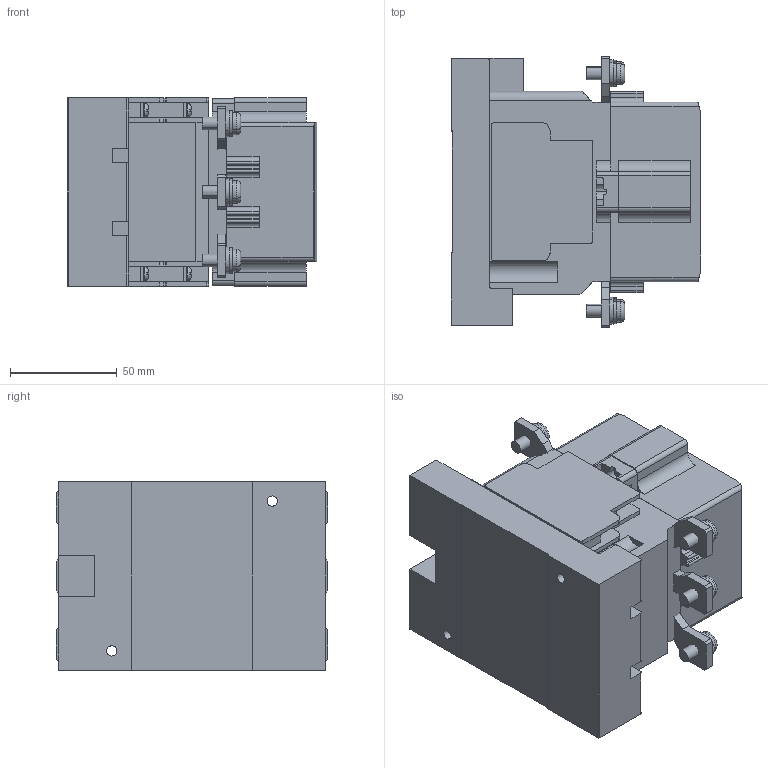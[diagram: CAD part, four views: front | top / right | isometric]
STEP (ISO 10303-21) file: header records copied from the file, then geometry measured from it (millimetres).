
FILE_DESCRIPTION (( 'STEP AP214' ), '1' );
FILE_NAME ('SC-N4.STEP', '2014-03-24T12:00:02', ( '川崎工場' ), ( '富士電機システムズ株式会社' ), 'SwSTEP 2.0', 'SolidWorks 2005204', '' );
FILE_SCHEMA (( 'AUTOMOTIVE_DESIGN' ));
Length unit declared in the file: millimetre
Products named in the file (12): SC-N4_Case_base_蹬怮椔; SC-N4_Case_top_蹬怮椔; SC-N4_Case_asm_蹬怮椔; SC-N4_Plate_Main_Center_蹬怮椔; SC-N4_Sub_Plate_asm_蹬怮椔; SC-N4_Plate_Main_Outside_蹬怮椔; SC-N4_ScrewM6L14_Set_蹬怮椔; Screw_M3.5_L7_抂巕斅晅_棉太倌; Springwasher_M6_蹬怮椔; Washer_M6_蹬怮椔; Screw_M6_L14_蹬怮椔; SC-N4
Assembly tree (29 placements, depth 4):
  SC-N4
    SC-N4_ScrewM6L14_Set_蹬怮椔  x6
      Washer_M6_蹬怮椔
      Screw_M6_L14_蹬怮椔
      Springwasher_M6_蹬怮椔
    SC-N4_Case_asm_蹬怮椔
      Screw_M3.5_L7_抂巕斅晅_棉太倌  x2
      SC-N4_Plate_Main_Outside_蹬怮椔  x4
      SC-N4_Sub_Plate_asm_蹬怮椔
        Screw_M3.5_L7_抂巕斅晅_棉太倌  x8
      SC-N4_Plate_Main_Center_蹬怮椔  x2
      SC-N4_Case_base_蹬怮椔
      SC-N4_Case_top_蹬怮椔
Bounding box: 116.7 x 127 x 88 mm (x, y, z)
Volume: 857717.5 mm3; surface area: 104488 mm2
Topology: 36 solids, 36 shells, 964 faces, 2525 edges, 1670 vertices
Faces by surface type: plane 621, cylinder 287, torus 32, cone 24
Entity records: 17026 total; most frequent: CARTESIAN_POINT 2768, DIRECTION 2412, ORIENTED_EDGE 2412, EDGE_CURVE 1206, VECTOR 844, LINE 844, VERTEX_POINT 800, AXIS2_PLACEMENT_3D 784
